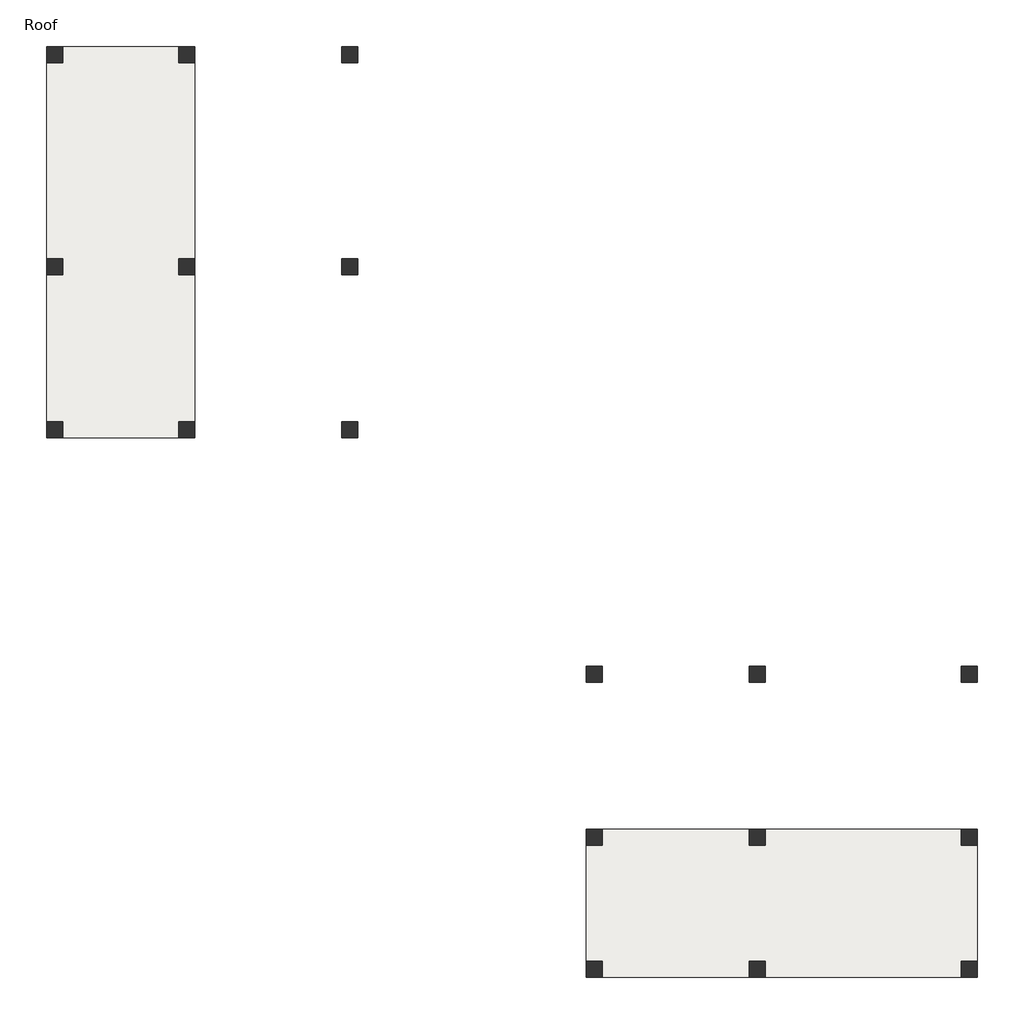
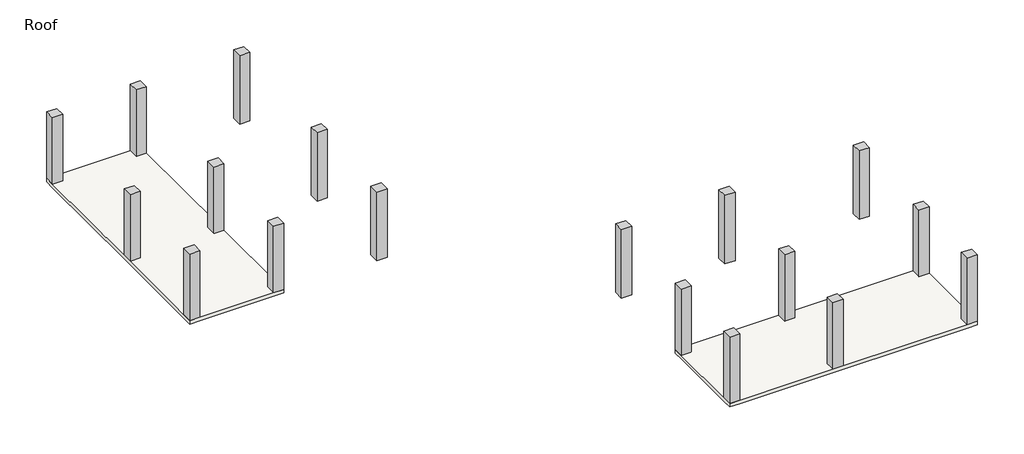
# One storey: 18 columns, 4 slabs.
"""IFC4 building model written with IfcOpenShell, lengths in millimetres."""

from ifc_helpers import new_model, si_unit, frame, origin, place, context, project, spatial, polyline, outline, extrude, faceted_brep, element, save

model = new_model("IFC4")

# Units and contexts
model_context = context("Model", 3, world=origin())
ifc_project = project(units=[si_unit("LENGTHUNIT", "METRE", prefix="MILLI")], contexts=[model_context])

# Site, building, storey
site = spatial("IfcSite", under=ifc_project)
building = spatial("IfcBuilding", under=site)
storey = spatial("IfcBuildingStorey", under=building, Name="Roof", Elevation=7315.0)

# Columns
placement = place(None, origin())
element("IfcColumn", 1, ObjectType="M_Concrete-Rectangular-Column : 600 x 600mm", at=placement, inside=storey, context=model_context, shape_type="SweptSolid", body=[
    extrude(outline(polyline([(-21844.300634, -10058.8363965), (-21844.300634, -9458.8363965), (-21244.300634, -9458.8363965), (-21244.300634, -10058.8363965), (-21844.300634, -10058.8363965)])), frame((0.0, 0.0, 7435.0), z_axis=(0.0, 0.0, 1.0), x_axis=(1.0, 0.0, 0.0)), (0.0, 0.0, 1.0), 4147.0),
])
element("IfcColumn", 2, ObjectType="M_Concrete-Rectangular-Column : 600 x 600mm", at=placement, inside=storey, context=model_context, shape_type="SweptSolid", body=[
    extrude(outline(polyline([(-21844.300634, -3962.8363965), (-21844.300634, -3362.8363965), (-21244.300634, -3362.8363965), (-21244.300634, -3962.8363965), (-21844.300634, -3962.8363965)])), frame((0.0, 0.0, 7435.0), z_axis=(0.0, 0.0, 1.0), x_axis=(1.0, 0.0, 0.0)), (0.0, 0.0, 1.0), 4147.0),
])
element("IfcColumn", 3, ObjectType="M_Concrete-Rectangular-Column : 600 x 600mm", at=placement, inside=storey, context=model_context, shape_type="SweptSolid", body=[
    extrude(outline(polyline([(-21844.300634, 3962.1636035), (-21844.300634, 4562.1636035), (-21244.300634, 4562.1636035), (-21244.300634, 3962.1636035), (-21844.300634, 3962.1636035)])), frame((0.0, 0.0, 7435.0), z_axis=(0.0, 0.0, 1.0), x_axis=(1.0, 0.0, 0.0)), (0.0, 0.0, 1.0), 4147.0),
])
element("IfcColumn", 4, ObjectType="M_Concrete-Rectangular-Column : 600 x 600mm", at=placement, inside=storey, context=model_context, shape_type="SweptSolid", body=[
    extrude(outline(polyline([(-16904.9035319, -10058.8363965), (-16904.9035319, -9458.8363965), (-16304.9035319, -9458.8363965), (-16304.9035319, -10058.8363965), (-16904.9035319, -10058.8363965)])), frame((0.0, 0.0, 7435.0), z_axis=(0.0, 0.0, 1.0), x_axis=(1.0, 0.0, 0.0)), (0.0, 0.0, 1.0), 4147.0),
])
element("IfcColumn", 5, ObjectType="M_Concrete-Rectangular-Column : 600 x 600mm", at=placement, inside=storey, context=model_context, shape_type="SweptSolid", body=[
    extrude(outline(polyline([(-16904.9035319, -3962.8363965), (-16904.9035319, -3362.8363965), (-16304.9035319, -3362.8363965), (-16304.9035319, -3962.8363965), (-16904.9035319, -3962.8363965)])), frame((0.0, 0.0, 7435.0), z_axis=(0.0, 0.0, 1.0), x_axis=(1.0, 0.0, 0.0)), (0.0, 0.0, 1.0), 4147.0),
])
element("IfcColumn", 6, ObjectType="M_Concrete-Rectangular-Column : 600 x 600mm", at=placement, inside=storey, context=model_context, shape_type="SweptSolid", body=[
    extrude(outline(polyline([(-16904.9035319, 3962.1636035), (-16904.9035319, 4562.1636035), (-16304.9035319, 4562.1636035), (-16304.9035319, 3962.1636035), (-16904.9035319, 3962.1636035)])), frame((0.0, 0.0, 7435.0), z_axis=(0.0, 0.0, 1.0), x_axis=(1.0, 0.0, 0.0)), (0.0, 0.0, 1.0), 4147.0),
])
element("IfcColumn", 7, ObjectType="M_Concrete-Rectangular-Column : 600 x 600mm", at=placement, inside=storey, context=model_context, shape_type="SweptSolid", body=[
    extrude(outline(polyline([(-10808.9035319, -10058.8363965), (-10808.9035319, -9458.8363965), (-10208.9035319, -9458.8363965), (-10208.9035319, -10058.8363965), (-10808.9035319, -10058.8363965)])), frame((0.0, 0.0, 7315.0), z_axis=(0.0, 0.0, 1.0), x_axis=(1.0, 0.0, 0.0)), (0.0, 0.0, 1.0), 4267.0),
])
element("IfcColumn", 8, ObjectType="M_Concrete-Rectangular-Column : 600 x 600mm", at=placement, inside=storey, context=model_context, shape_type="SweptSolid", body=[
    extrude(outline(polyline([(-10808.9035319, -3962.8363965), (-10808.9035319, -3362.8363965), (-10208.9035319, -3362.8363965), (-10208.9035319, -3962.8363965), (-10808.9035319, -3962.8363965)])), frame((0.0, 0.0, 7315.0), z_axis=(0.0, 0.0, 1.0), x_axis=(1.0, 0.0, 0.0)), (0.0, 0.0, 1.0), 4267.0),
])
element("IfcColumn", 9, ObjectType="M_Concrete-Rectangular-Column : 600 x 600mm", at=placement, inside=storey, context=model_context, shape_type="SweptSolid", body=[
    extrude(outline(polyline([(-10808.9035319, 3962.1636035), (-10808.9035319, 4562.1636035), (-10208.9035319, 4562.1636035), (-10208.9035319, 3962.1636035), (-10808.9035319, 3962.1636035)])), frame((0.0, 0.0, 7315.0), z_axis=(0.0, 0.0, 1.0), x_axis=(1.0, 0.0, 0.0)), (0.0, 0.0, 1.0), 4267.0),
])
element("IfcColumn", 10, ObjectType="M_Concrete-Rectangular-Column : 600 x 600mm", at=placement, inside=storey, context=model_context, shape_type="SweptSolid", body=[
    extrude(outline(polyline([(-1064.9035319, -30238.2334986), (-1664.9035319, -30238.2334986), (-1664.9035319, -29638.2334986), (-1064.9035319, -29638.2334986), (-1064.9035319, -30238.2334986)])), frame((0.0, 0.0, 7435.0), z_axis=(0.0, 0.0, 1.0), x_axis=(1.0, 0.0, 0.0)), (0.0, 0.0, 1.0), 4147.0),
])
element("IfcColumn", 11, ObjectType="M_Concrete-Rectangular-Column : 600 x 600mm", at=placement, inside=storey, context=model_context, shape_type="SweptSolid", body=[
    extrude(outline(polyline([(5031.0964681, -30238.2334986), (4431.0964681, -30238.2334986), (4431.0964681, -29638.2334986), (5031.0964681, -29638.2334986), (5031.0964681, -30238.2334986)])), frame((0.0, 0.0, 7435.0), z_axis=(0.0, 0.0, 1.0), x_axis=(1.0, 0.0, 0.0)), (0.0, 0.0, 1.0), 4147.0),
])
element("IfcColumn", 12, ObjectType="M_Concrete-Rectangular-Column : 600 x 600mm", at=placement, inside=storey, context=model_context, shape_type="SweptSolid", body=[
    extrude(outline(polyline([(12956.0964681, -30238.2334986), (12356.0964681, -30238.2334986), (12356.0964681, -29638.2334986), (12956.0964681, -29638.2334986), (12956.0964681, -30238.2334986)])), frame((0.0, 0.0, 7435.0), z_axis=(0.0, 0.0, 1.0), x_axis=(1.0, 0.0, 0.0)), (0.0, 0.0, 1.0), 4147.0),
])
element("IfcColumn", 13, ObjectType="M_Concrete-Rectangular-Column : 600 x 600mm", at=placement, inside=storey, context=model_context, shape_type="SweptSolid", body=[
    extrude(outline(polyline([(-1064.9035319, -25298.8363965), (-1664.9035319, -25298.8363965), (-1664.9035319, -24698.8363965), (-1064.9035319, -24698.8363965), (-1064.9035319, -25298.8363965)])), frame((0.0, 0.0, 7435.0), z_axis=(0.0, 0.0, 1.0), x_axis=(1.0, 0.0, 0.0)), (0.0, 0.0, 1.0), 4147.0),
])
element("IfcColumn", 14, ObjectType="M_Concrete-Rectangular-Column : 600 x 600mm", at=placement, inside=storey, context=model_context, shape_type="SweptSolid", body=[
    extrude(outline(polyline([(5031.0964681, -25298.8363965), (4431.0964681, -25298.8363965), (4431.0964681, -24698.8363965), (5031.0964681, -24698.8363965), (5031.0964681, -25298.8363965)])), frame((0.0, 0.0, 7435.0), z_axis=(0.0, 0.0, 1.0), x_axis=(1.0, 0.0, 0.0)), (0.0, 0.0, 1.0), 4147.0),
])
element("IfcColumn", 15, ObjectType="M_Concrete-Rectangular-Column : 600 x 600mm", at=placement, inside=storey, context=model_context, shape_type="SweptSolid", body=[
    extrude(outline(polyline([(12956.0964681, -25298.8363965), (12356.0964681, -25298.8363965), (12356.0964681, -24698.8363965), (12956.0964681, -24698.8363965), (12956.0964681, -25298.8363965)])), frame((0.0, 0.0, 7435.0), z_axis=(0.0, 0.0, 1.0), x_axis=(1.0, 0.0, 0.0)), (0.0, 0.0, 1.0), 4147.0),
])
element("IfcColumn", 16, ObjectType="M_Concrete-Rectangular-Column : 600 x 600mm", at=placement, inside=storey, context=model_context, shape_type="SweptSolid", body=[
    extrude(outline(polyline([(-1664.9035319, -19202.8363965), (-1664.9035319, -18602.8363965), (-1064.9035319, -18602.8363965), (-1064.9035319, -19202.8363965), (-1664.9035319, -19202.8363965)])), frame((0.0, 0.0, 7315.0), z_axis=(0.0, 0.0, 1.0), x_axis=(1.0, 0.0, 0.0)), (0.0, 0.0, 1.0), 4267.0),
])
element("IfcColumn", 17, ObjectType="M_Concrete-Rectangular-Column : 600 x 600mm", at=placement, inside=storey, context=model_context, shape_type="SweptSolid", body=[
    extrude(outline(polyline([(4431.0964681, -19202.8363965), (4431.0964681, -18602.8363965), (5031.0964681, -18602.8363965), (5031.0964681, -19202.8363965), (4431.0964681, -19202.8363965)])), frame((0.0, 0.0, 7315.0), z_axis=(0.0, 0.0, 1.0), x_axis=(1.0, 0.0, 0.0)), (0.0, 0.0, 1.0), 4267.0),
])
element("IfcColumn", 18, ObjectType="M_Concrete-Rectangular-Column : 600 x 600mm", at=placement, inside=storey, context=model_context, shape_type="SweptSolid", body=[
    extrude(outline(polyline([(12356.0964681, -19202.8363965), (12356.0964681, -18602.8363965), (12956.0964681, -18602.8363965), (12956.0964681, -19202.8363965), (12356.0964681, -19202.8363965)])), frame((0.0, 0.0, 7315.0), z_axis=(0.0, 0.0, 1.0), x_axis=(1.0, 0.0, 0.0)), (0.0, 0.0, 1.0), 4267.0),
])

# Slabs
element("IfcSlab", 19, ObjectType="160mm Concrete With 50mm Metal Deck", at=placement, inside=storey, context=model_context, shape_type="Brep", body=[
    faceted_brep([(-16304.9035319, 4562.1636035, 7225.0), (-16304.9035319, 3962.1636035, 7225.0), (-16304.9035319, -3362.8363965, 7225.0), (-16304.9035319, -3962.8363965, 7225.0), (-16304.9035319, -9458.8363965, 7225.0), (-16304.9035319, -10058.8363965, 7225.0), (-16904.9035319, -10058.8363965, 7225.0), (-21244.300634, -10058.8363965, 7225.0), (-21844.300634, -10058.8363965, 7225.0), (-21844.300634, -9458.8363965, 7225.0), (-21844.300634, -3962.8363965, 7225.0), (-21844.300634, -3362.8363965, 7225.0), (-21844.300634, 3962.1636035, 7225.0), (-21844.300634, 4562.1636035, 7225.0), (-21244.300634, 4562.1636035, 7225.0), (-16904.9035319, 4562.1636035, 7225.0), (-16304.9035319, 4562.1636035, 7435.0), (-16904.9035319, 4562.1636035, 7435.0), (-21244.300634, 4562.1636035, 7435.0), (-21844.300634, 4562.1636035, 7435.0), (-21844.300634, 3962.1636035, 7435.0), (-21844.300634, -3362.8363965, 7435.0), (-21844.300634, -3962.8363965, 7435.0), (-21844.300634, -9458.8363965, 7435.0), (-21844.300634, -10058.8363965, 7435.0), (-21244.300634, -10058.8363965, 7435.0), (-16904.9035319, -10058.8363965, 7435.0), (-16304.9035319, -10058.8363965, 7435.0), (-16304.9035319, -9458.8363965, 7435.0), (-16304.9035319, -3962.8363965, 7435.0), (-16304.9035319, -3362.8363965, 7435.0), (-16304.9035319, 3962.1636035, 7435.0)], [[[0, 1, 2, 3, 4, 5, 6, 7, 8, 9, 10, 11, 12, 13, 14, 15]], [[16, 17, 18, 19, 20, 21, 22, 23, 24, 25, 26, 27, 28, 29, 30, 31]], [[5, 4, 3, 2, 1, 0, 16, 31, 30, 29, 28, 27]], [[8, 7, 6, 5, 27, 26, 25, 24]], [[13, 12, 11, 10, 9, 8, 24, 23, 22, 21, 20, 19]], [[0, 15, 14, 13, 19, 18, 17, 16]]]),
])
element("IfcSlab", 20, ObjectType="160mm Concrete With 50mm Metal Deck", at=placement, inside=storey, context=model_context, shape_type="Brep", body=[
    faceted_brep([(-16304.9035319, 4562.1636035, 7225.0), (-16304.9035319, 3962.1636035, 7225.0), (-16304.9035319, -3362.8363965, 7225.0), (-16304.9035319, -3962.8363965, 7225.0), (-16304.9035319, -9458.8363965, 7225.0), (-16304.9035319, -10058.8363965, 7225.0), (-16904.9035319, -10058.8363965, 7225.0), (-21244.300634, -10058.8363965, 7225.0), (-21844.300634, -10058.8363965, 7225.0), (-21844.300634, -9458.8363965, 7225.0), (-21844.300634, -3962.8363965, 7225.0), (-21844.300634, -3362.8363965, 7225.0), (-21844.300634, 3962.1636035, 7225.0), (-21844.300634, 4562.1636035, 7225.0), (-21244.300634, 4562.1636035, 7225.0), (-16904.9035319, 4562.1636035, 7225.0), (-16304.9035319, 4562.1636035, 7435.0), (-16904.9035319, 4562.1636035, 7435.0), (-21244.300634, 4562.1636035, 7435.0), (-21844.300634, 4562.1636035, 7435.0), (-21844.300634, 3962.1636035, 7435.0), (-21844.300634, -3362.8363965, 7435.0), (-21844.300634, -3962.8363965, 7435.0), (-21844.300634, -9458.8363965, 7435.0), (-21844.300634, -10058.8363965, 7435.0), (-21244.300634, -10058.8363965, 7435.0), (-16904.9035319, -10058.8363965, 7435.0), (-16304.9035319, -10058.8363965, 7435.0), (-16304.9035319, -9458.8363965, 7435.0), (-16304.9035319, -3962.8363965, 7435.0), (-16304.9035319, -3362.8363965, 7435.0), (-16304.9035319, 3962.1636035, 7435.0)], [[[0, 1, 2, 3, 4, 5, 6, 7, 8, 9, 10, 11, 12, 13, 14, 15]], [[16, 17, 18, 19, 20, 21, 22, 23, 24, 25, 26, 27, 28, 29, 30, 31]], [[5, 4, 3, 2, 1, 0, 16, 31, 30, 29, 28, 27]], [[8, 7, 6, 5, 27, 26, 25, 24]], [[13, 12, 11, 10, 9, 8, 24, 23, 22, 21, 20, 19]], [[0, 15, 14, 13, 19, 18, 17, 16]]]),
])
element("IfcSlab", 21, ObjectType="160mm Concrete With 50mm Metal Deck", at=placement, inside=storey, context=model_context, shape_type="Brep", body=[
    faceted_brep([(12956.0964681, -24698.8363965, 7225.0), (12956.0964681, -25298.8363965, 7225.0), (12956.0964681, -29638.2334986, 7225.0), (12956.0964681, -30238.2334986, 7225.0), (12356.0964681, -30238.2334986, 7225.0), (5031.0964681, -30238.2334986, 7225.0), (4431.0964681, -30238.2334986, 7225.0), (-1064.9035319, -30238.2334986, 7225.0), (-1664.9035319, -30238.2334986, 7225.0), (-1664.9035319, -29638.2334986, 7225.0), (-1664.9035319, -25298.8363965, 7225.0), (-1664.9035319, -24698.8363965, 7225.0), (-1064.9035319, -24698.8363965, 7225.0), (4431.0964681, -24698.8363965, 7225.0), (5031.0964681, -24698.8363965, 7225.0), (12356.0964681, -24698.8363965, 7225.0), (12956.0964681, -24698.8363965, 7435.0), (12356.0964681, -24698.8363965, 7435.0), (5031.0964681, -24698.8363965, 7435.0), (4431.0964681, -24698.8363965, 7435.0), (-1064.9035319, -24698.8363965, 7435.0), (-1664.9035319, -24698.8363965, 7435.0), (-1664.9035319, -25298.8363965, 7435.0), (-1664.9035319, -29638.2334986, 7435.0), (-1664.9035319, -30238.2334986, 7435.0), (-1064.9035319, -30238.2334986, 7435.0), (4431.0964681, -30238.2334986, 7435.0), (5031.0964681, -30238.2334986, 7435.0), (12356.0964681, -30238.2334986, 7435.0), (12956.0964681, -30238.2334986, 7435.0), (12956.0964681, -29638.2334986, 7435.0), (12956.0964681, -25298.8363965, 7435.0)], [[[0, 1, 2, 3, 4, 5, 6, 7, 8, 9, 10, 11, 12, 13, 14, 15]], [[16, 17, 18, 19, 20, 21, 22, 23, 24, 25, 26, 27, 28, 29, 30, 31]], [[0, 15, 14, 13, 12, 11, 21, 20, 19, 18, 17, 16]], [[11, 10, 9, 8, 24, 23, 22, 21]], [[8, 7, 6, 5, 4, 3, 29, 28, 27, 26, 25, 24]], [[3, 2, 1, 0, 16, 31, 30, 29]]]),
])
element("IfcSlab", 22, ObjectType="160mm Concrete With 50mm Metal Deck", at=placement, inside=storey, context=model_context, shape_type="Brep", body=[
    faceted_brep([(12956.0964681, -24698.8363965, 7225.0), (12956.0964681, -25298.8363965, 7225.0), (12956.0964681, -29638.2334986, 7225.0), (12956.0964681, -30238.2334986, 7225.0), (12356.0964681, -30238.2334986, 7225.0), (5031.0964681, -30238.2334986, 7225.0), (4431.0964681, -30238.2334986, 7225.0), (-1064.9035319, -30238.2334986, 7225.0), (-1664.9035319, -30238.2334986, 7225.0), (-1664.9035319, -29638.2334986, 7225.0), (-1664.9035319, -25298.8363965, 7225.0), (-1664.9035319, -24698.8363965, 7225.0), (-1064.9035319, -24698.8363965, 7225.0), (4431.0964681, -24698.8363965, 7225.0), (5031.0964681, -24698.8363965, 7225.0), (12356.0964681, -24698.8363965, 7225.0), (12956.0964681, -24698.8363965, 7435.0), (12356.0964681, -24698.8363965, 7435.0), (5031.0964681, -24698.8363965, 7435.0), (4431.0964681, -24698.8363965, 7435.0), (-1064.9035319, -24698.8363965, 7435.0), (-1664.9035319, -24698.8363965, 7435.0), (-1664.9035319, -25298.8363965, 7435.0), (-1664.9035319, -29638.2334986, 7435.0), (-1664.9035319, -30238.2334986, 7435.0), (-1064.9035319, -30238.2334986, 7435.0), (4431.0964681, -30238.2334986, 7435.0), (5031.0964681, -30238.2334986, 7435.0), (12356.0964681, -30238.2334986, 7435.0), (12956.0964681, -30238.2334986, 7435.0), (12956.0964681, -29638.2334986, 7435.0), (12956.0964681, -25298.8363965, 7435.0)], [[[0, 1, 2, 3, 4, 5, 6, 7, 8, 9, 10, 11, 12, 13, 14, 15]], [[16, 17, 18, 19, 20, 21, 22, 23, 24, 25, 26, 27, 28, 29, 30, 31]], [[0, 15, 14, 13, 12, 11, 21, 20, 19, 18, 17, 16]], [[11, 10, 9, 8, 24, 23, 22, 21]], [[8, 7, 6, 5, 4, 3, 29, 28, 27, 26, 25, 24]], [[3, 2, 1, 0, 16, 31, 30, 29]]]),
])

save(model, "model.ifc")
